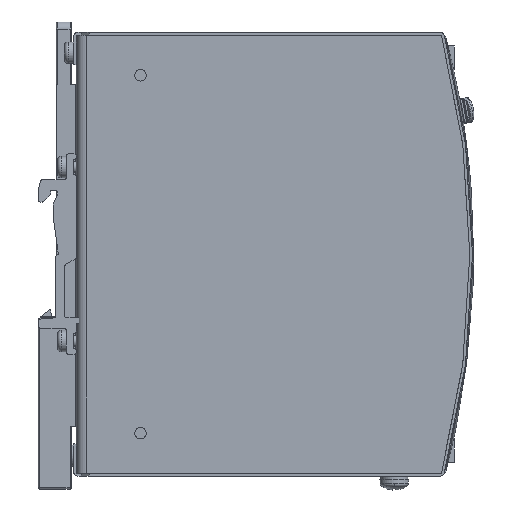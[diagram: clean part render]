
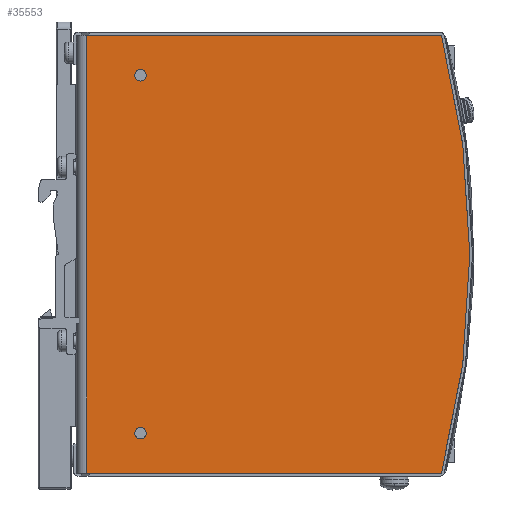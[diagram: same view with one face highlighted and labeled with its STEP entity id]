
A CAD part, front view. The second image highlights one B-rep face of the part: STEP entity #35553.
In plain terms, the highlighted planar face has unit normal (0, -1, 0).
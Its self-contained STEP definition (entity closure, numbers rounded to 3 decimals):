
#24 = DIRECTION ( 'NONE',  ( 0., 0., -1. ) ) ;
#536 = AXIS2_PLACEMENT_3D ( 'NONE', #15585, #47442, #3863 ) ;
#730 = CARTESIAN_POINT ( 'NONE',  ( 18., -19.5, 50. ) ) ;
#1065 = EDGE_CURVE ( 'NONE', #65906, #27925, #69527, .T. ) ;
#1094 = EDGE_CURVE ( 'NONE', #72043, #43222, #37354, .T. ) ;
#3789 = CARTESIAN_POINT ( 'NONE',  ( 102.079, -19.5, -61.15 ) ) ;
#3863 = DIRECTION ( 'NONE',  ( -1., 0., 0. ) ) ;
#5269 = CARTESIAN_POINT ( 'NONE',  ( 19.6, -19.5, -50. ) ) ;
#7870 = DIRECTION ( 'NONE',  ( -0.967, 0., -0.255 ) ) ;
#10856 = CARTESIAN_POINT ( 'NONE',  ( 102.079, -19.5, -61.15 ) ) ;
#11035 = DIRECTION ( 'NONE',  ( -1., 0., 0. ) ) ;
#11062 = ORIENTED_EDGE ( 'NONE', *, *, #1094, .T. ) ;
#13366 = VERTEX_POINT ( 'NONE', #76446 ) ;
#13697 = ORIENTED_EDGE ( 'NONE', *, *, #65234, .F. ) ;
#15585 = CARTESIAN_POINT ( 'NONE',  ( 18., -19.5, -50. ) ) ;
#15752 = CARTESIAN_POINT ( 'NONE',  ( 102.079, -19.5, 61.15 ) ) ;
#18415 = ORIENTED_EDGE ( 'NONE', *, *, #56503, .T. ) ;
#21162 = DIRECTION ( 'NONE',  ( -1., 0., 0. ) ) ;
#21462 = FACE_BOUND ( 'NONE', #40265, .T. ) ;
#23999 = EDGE_CURVE ( 'NONE', #44776, #13366, #39201, .T. ) ;
#25326 = CARTESIAN_POINT ( 'NONE',  ( 18., -19.5, -50. ) ) ;
#27010 = EDGE_CURVE ( 'NONE', #43222, #44776, #77788, .T. ) ;
#27038 = CARTESIAN_POINT ( 'NONE',  ( 19.6, -19.5, 50. ) ) ;
#27925 = VERTEX_POINT ( 'NONE', #70254 ) ;
#30612 = DIRECTION ( 'NONE',  ( 0., 1., 0. ) ) ;
#31552 = EDGE_LOOP ( 'NONE', ( #48954, #33664 ) ) ;
#33664 = ORIENTED_EDGE ( 'NONE', *, *, #1065, .T. ) ;
#35553 = ADVANCED_FACE ( 'NONE', ( #21462, #46071, #70671 ), #64596, .T. ) ;
#37137 = AXIS2_PLACEMENT_3D ( 'NONE', #79458, #55687, #24 ) ;
#37354 = CIRCLE ( 'NONE', #75928, 240. ) ;
#38167 = CARTESIAN_POINT ( 'NONE',  ( 16.4, -19.5, -50. ) ) ;
#38548 = CARTESIAN_POINT ( 'NONE',  ( 18., -19.5, 50. ) ) ;
#38989 = VECTOR ( 'NONE', #11035, 1000. ) ;
#39201 = LINE ( 'NONE', #50881, #58112 ) ;
#39355 = DIRECTION ( 'NONE',  ( 0., 1., 0. ) ) ;
#40143 = CARTESIAN_POINT ( 'NONE',  ( -130., -19.5, 0. ) ) ;
#40265 = EDGE_LOOP ( 'NONE', ( #18415, #62910 ) ) ;
#42067 = EDGE_CURVE ( 'NONE', #67309, #53698, #53263, .T. ) ;
#42706 = DIRECTION ( 'NONE',  ( -1., 0., 0. ) ) ;
#43222 = VERTEX_POINT ( 'NONE', #66905 ) ;
#44776 = VERTEX_POINT ( 'NONE', #79194 ) ;
#46071 = FACE_BOUND ( 'NONE', #31552, .T. ) ;
#46447 = AXIS2_PLACEMENT_3D ( 'NONE', #730, #30612, #68090 ) ;
#47367 = LINE ( 'NONE', #3789, #38989 ) ;
#47442 = DIRECTION ( 'NONE',  ( 0., 1., 0. ) ) ;
#47975 = ORIENTED_EDGE ( 'NONE', *, *, #27010, .T. ) ;
#48954 = ORIENTED_EDGE ( 'NONE', *, *, #64614, .T. ) ;
#49504 = VECTOR ( 'NONE', #79003, 1000. ) ;
#50881 = CARTESIAN_POINT ( 'NONE',  ( 3., -19.5, 61.15 ) ) ;
#53263 = CIRCLE ( 'NONE', #71289, 1.6 ) ;
#53698 = VERTEX_POINT ( 'NONE', #38167 ) ;
#55687 = DIRECTION ( 'NONE',  ( 0., -1., 0. ) ) ;
#56503 = EDGE_CURVE ( 'NONE', #53698, #67309, #59755, .T. ) ;
#57025 = ORIENTED_EDGE ( 'NONE', *, *, #23999, .T. ) ;
#58112 = VECTOR ( 'NONE', #75434, 1000. ) ;
#59755 = CIRCLE ( 'NONE', #536, 1.6 ) ;
#62910 = ORIENTED_EDGE ( 'NONE', *, *, #42067, .T. ) ;
#63114 = DIRECTION ( 'NONE',  ( 0., -1., 0. ) ) ;
#64596 = PLANE ( 'NONE',  #37137 ) ;
#64614 = EDGE_CURVE ( 'NONE', #27925, #65906, #67059, .T. ) ;
#65234 = EDGE_CURVE ( 'NONE', #72043, #13366, #47367, .T. ) ;
#65906 = VERTEX_POINT ( 'NONE', #27038 ) ;
#66905 = CARTESIAN_POINT ( 'NONE',  ( 102.079, -19.5, 61.15 ) ) ;
#67059 = CIRCLE ( 'NONE', #46447, 1.6 ) ;
#67309 = VERTEX_POINT ( 'NONE', #5269 ) ;
#68090 = DIRECTION ( 'NONE',  ( -1., 0., 0. ) ) ;
#69394 = EDGE_LOOP ( 'NONE', ( #11062, #47975, #57025, #13697 ) ) ;
#69527 = CIRCLE ( 'NONE', #72083, 1.6 ) ;
#70254 = CARTESIAN_POINT ( 'NONE',  ( 16.4, -19.5, 50. ) ) ;
#70671 = FACE_OUTER_BOUND ( 'NONE', #69394, .T. ) ;
#71289 = AXIS2_PLACEMENT_3D ( 'NONE', #25326, #74479, #42706 ) ;
#72043 = VERTEX_POINT ( 'NONE', #10856 ) ;
#72083 = AXIS2_PLACEMENT_3D ( 'NONE', #38548, #39355, #21162 ) ;
#74479 = DIRECTION ( 'NONE',  ( 0., 1., 0. ) ) ;
#75434 = DIRECTION ( 'NONE',  ( 0., 0., -1. ) ) ;
#75928 = AXIS2_PLACEMENT_3D ( 'NONE', #40143, #63114, #7870 ) ;
#76446 = CARTESIAN_POINT ( 'NONE',  ( 3., -19.5, -61.15 ) ) ;
#77788 = LINE ( 'NONE', #15752, #49504 ) ;
#79003 = DIRECTION ( 'NONE',  ( -1., 0., 0. ) ) ;
#79194 = CARTESIAN_POINT ( 'NONE',  ( 3., -19.5, 61.15 ) ) ;
#79458 = CARTESIAN_POINT ( 'NONE',  ( 130., -19.5, -61.15 ) ) ;
